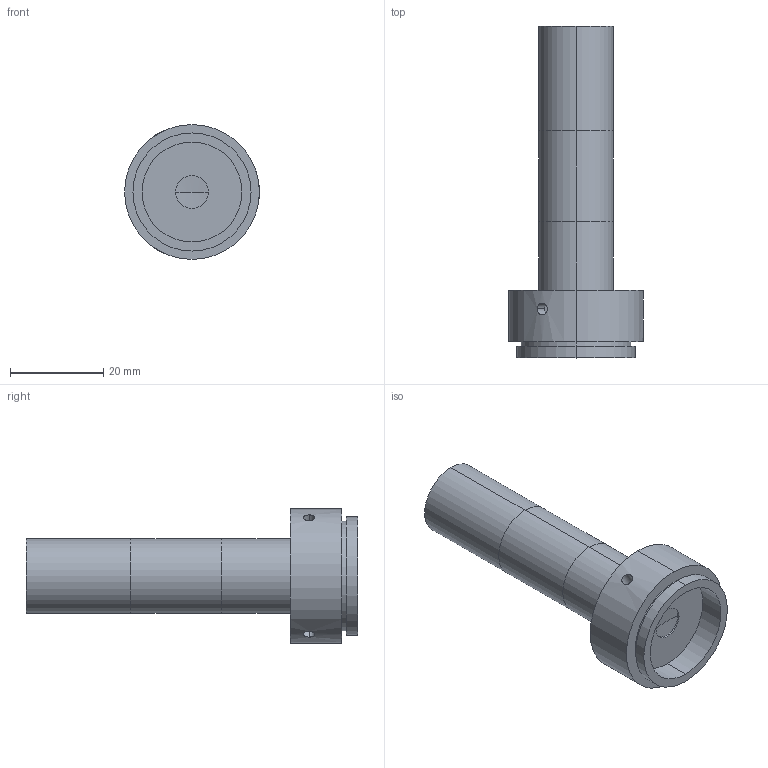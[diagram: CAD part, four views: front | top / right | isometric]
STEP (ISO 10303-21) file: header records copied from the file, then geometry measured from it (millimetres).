
FILE_DESCRIPTION (( 'STEP AP203' ), '1' );
FILE_NAME ('XF-T3X65.STEP', '2015-07-31T05:35:39', ( 'Lxtx999.CoM' ), ( 'Lxtx999.CoM' ), 'SwSTEP 2.0', 'SolidWorks 2014', '' );
FILE_SCHEMA (( 'CONFIG_CONTROL_DESIGN' ));
Length unit declared in the file: millimetre
Products named in the file (1): XF-T3X65
Bounding box: 29 x 71.35 x 29 mm (x, y, z)
Surface area: 6646.5 mm2 (no closed solid volume)
Topology: 0 solids, 10 shells, 51 faces, 132 edges, 92 vertices
Faces by surface type: cylinder 28, plane 17, sphere 4, cone 2
Entity records: 1864 total; most frequent: CARTESIAN_POINT 504, DIRECTION 298, ORIENTED_EDGE 216, EDGE_CURVE 132, AXIS2_PLACEMENT_3D 126, VERTEX_POINT 92, CIRCLE 74, EDGE_LOOP 63
